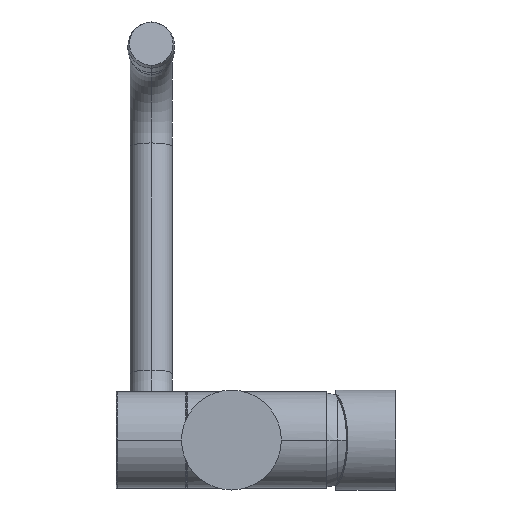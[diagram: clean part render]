
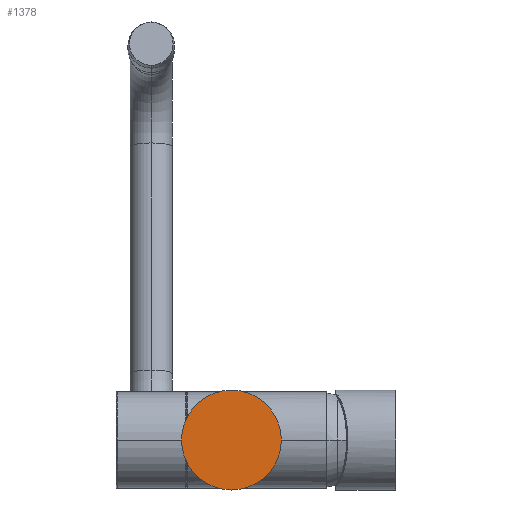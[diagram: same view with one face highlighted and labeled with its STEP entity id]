
A CAD part, front view. The second image highlights one B-rep face of the part: STEP entity #1378.
In plain terms, the highlighted planar face has unit normal (0, -1, 0).
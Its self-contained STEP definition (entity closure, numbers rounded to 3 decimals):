
#523=CARTESIAN_POINT('',(0.,0.,0.));
#524=DIRECTION('',(0.,1.,0.));
#525=DIRECTION('',(1.,0.,0.));
#526=AXIS2_PLACEMENT_3D('',#523,#524,#525);
#528=CARTESIAN_POINT('',(0.,0.,0.));
#529=DIRECTION('',(0.,-1.,0.));
#530=DIRECTION('',(1.,0.,0.));
#531=AXIS2_PLACEMENT_3D('',#528,#529,#530);
#691=CARTESIAN_POINT('',(24.9,0.,0.));
#693=VERTEX_POINT('',#691);
#695=CARTESIAN_POINT('',(-24.9,0.,0.));
#697=VERTEX_POINT('',#695);
#1369=CARTESIAN_POINT('',(0.,0.,0.));
#1370=DIRECTION('',(0.,-1.,0.));
#1371=DIRECTION('',(-1.,0.,0.));
#1372=AXIS2_PLACEMENT_3D('',#1369,#1370,#1371);
#1373=PLANE('',#1372);
#1374=ORIENTED_EDGE('',*,*,#1362,.F.);
#1375=ORIENTED_EDGE('',*,*,#1351,.T.);
#1376=EDGE_LOOP('',(#1374,#1375));
#1377=FACE_OUTER_BOUND('',#1376,.F.);
#1378=ADVANCED_FACE('',(#1377),#1373,.T.);
#527=CIRCLE('',#526,24.9);
#532=CIRCLE('',#531,24.9);
#1351=EDGE_CURVE('',#693,#697,#527,.T.);
#1362=EDGE_CURVE('',#693,#697,#532,.T.);
